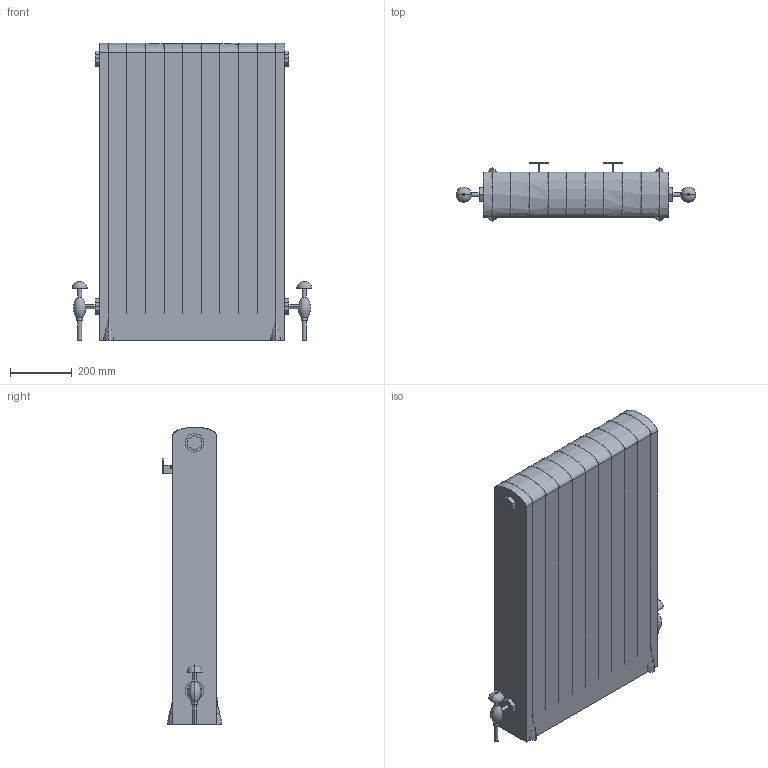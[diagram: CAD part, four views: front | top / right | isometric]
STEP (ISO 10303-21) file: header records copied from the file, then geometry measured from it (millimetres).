
FILE_DESCRIPTION(/* description */ (''),/* implementation_level */ '2;1');
FILE_NAME(/* name */ 'Ionic_4Column_WithFeet',/* time_stamp */ '2026-08-04T19:14:09+03:00',/* author */ (''),/* organization */ (''),/* preprocessor_version */ 'ST-DEVELOPER v20',/* originating_system */ '',/* authorisation */ '');
FILE_SCHEMA (('AP242_MANAGED_MODEL_BASED_3D_ENGINEERING_MIM_LF { 1 0 10303 442 1 1 4 }'));
Length unit declared in the file: millimetre
Products named in the file (11): TopLevelAssembly; Выдавливание; Выдавливание_
1; Выдавливание_
2; Выдавливание_
3; Выдавливание_
4; IonicBracket; MHS_Chartwell_Valve_Floor; MHS_Chartwell_Valve_Floor_1; MHS_Ionic_4_6_Feet; MHS_Ionic_4_6
Assembly tree (23 placements, depth 2):
  TopLevelAssembly
    Выдавливание
    Выдавливание_
1
    Выдавливание_
2
    Выдавливание_
3
    MHS_Ionic_4_6  x10
    Выдавливание_
4
    MHS_Ionic_4_6_Feet  x4
    IonicBracket  x2
    MHS_Chartwell_Valve_Floor
    MHS_Chartwell_Valve_Floor_1
Bounding box: 774.75 x 191 x 960.02 mm (x, y, z)
Volume: 119313653 mm3; surface area: 8715048.2 mm2
Topology: 103 solids, 103 shells, 1660 faces, 3610 edges, 2220 vertices
Faces by surface type: plane 687, bspline 573, cylinder 288, cone 112
Entity records: 24194 total; most frequent: CARTESIAN_POINT 16221, ORIENTED_EDGE 1514, DIRECTION 1455, EDGE_CURVE 757, AXIS2_PLACEMENT_3D 496, VERTEX_POINT 468, LINE 463, VECTOR 463
